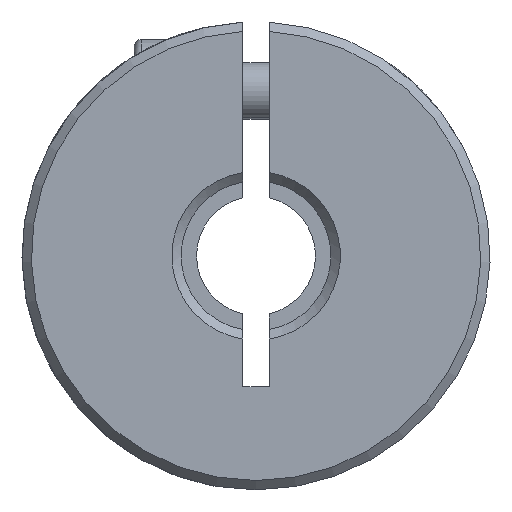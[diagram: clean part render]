
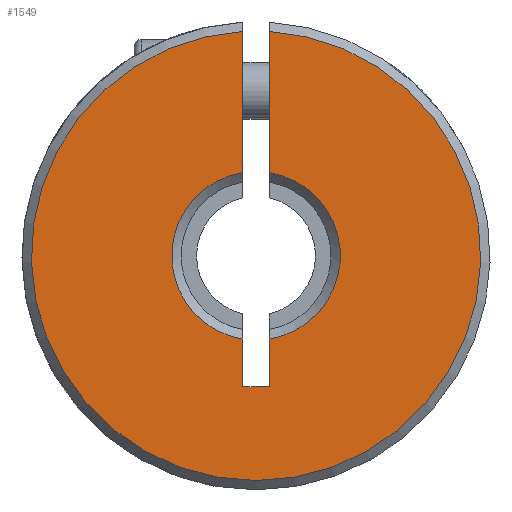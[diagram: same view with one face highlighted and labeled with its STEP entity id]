
A CAD part, front view. The second image highlights one B-rep face of the part: STEP entity #1549.
In plain terms, the highlighted planar face has unit normal (0, -1, 0).
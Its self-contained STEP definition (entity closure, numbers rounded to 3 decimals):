
#61 = EDGE_CURVE ( 'NONE', #613, #953, #4125, .T. ) ;
#71 = VECTOR ( 'NONE', #1649, 1000. ) ;
#156 = PLANE ( 'NONE',  #432 ) ;
#288 = ORIENTED_EDGE ( 'NONE', *, *, #5165, .F. ) ;
#303 = CARTESIAN_POINT ( 'NONE',  ( -0.7, 0.25, -7. ) ) ;
#430 = CARTESIAN_POINT ( 'NONE',  ( 0.7, 0.25, -7. ) ) ;
#432 = AXIS2_PLACEMENT_3D ( 'NONE', #3962, #1844, #3113 ) ;
#447 = CARTESIAN_POINT ( 'NONE',  ( -0.7, 0.25, -4.445 ) ) ;
#613 = VERTEX_POINT ( 'NONE', #2498 ) ;
#628 = VERTEX_POINT ( 'NONE', #974 ) ;
#848 = CARTESIAN_POINT ( 'NONE',  ( -0.7, 0.25, -7. ) ) ;
#890 = AXIS2_PLACEMENT_3D ( 'NONE', #4940, #1184, #2452 ) ;
#903 = ORIENTED_EDGE ( 'NONE', *, *, #61, .F. ) ;
#945 = VERTEX_POINT ( 'NONE', #2090 ) ;
#953 = VERTEX_POINT ( 'NONE', #4180 ) ;
#961 = DIRECTION ( 'NONE',  ( 0., 1., 0. ) ) ;
#974 = CARTESIAN_POINT ( 'NONE',  ( 0.7, 0.25, 11.98 ) ) ;
#1069 = CARTESIAN_POINT ( 'NONE',  ( 0.7, 0.25, -4.445 ) ) ;
#1073 = DIRECTION ( 'NONE',  ( 0., 0., 1. ) ) ;
#1184 = DIRECTION ( 'NONE',  ( 0., 1., 0. ) ) ;
#1308 = EDGE_CURVE ( 'NONE', #2051, #4084, #4613, .T. ) ;
#1317 = DIRECTION ( 'NONE',  ( 0., 0., 1. ) ) ;
#1549 = ADVANCED_FACE ( 'NONE', ( #3934 ), #156, .F. ) ;
#1649 = DIRECTION ( 'NONE',  ( 0., 0., -1. ) ) ;
#1714 = VERTEX_POINT ( 'NONE', #5418 ) ;
#1729 = LINE ( 'NONE', #430, #5420 ) ;
#1795 = DIRECTION ( 'NONE',  ( 0., 0., 1. ) ) ;
#1844 = DIRECTION ( 'NONE',  ( 0., 1., 0. ) ) ;
#1872 = CARTESIAN_POINT ( 'NONE',  ( 0., 0.25, 0. ) ) ;
#1952 = EDGE_CURVE ( 'NONE', #613, #628, #4398, .T. ) ;
#2029 = LINE ( 'NONE', #4446, #3791 ) ;
#2051 = VERTEX_POINT ( 'NONE', #447 ) ;
#2090 = CARTESIAN_POINT ( 'NONE',  ( 0.7, 0.25, 4.445 ) ) ;
#2333 = ORIENTED_EDGE ( 'NONE', *, *, #3919, .F. ) ;
#2452 = DIRECTION ( 'NONE',  ( 0., 0., 1. ) ) ;
#2498 = CARTESIAN_POINT ( 'NONE',  ( -0.7, 0.25, 11.98 ) ) ;
#2525 = EDGE_CURVE ( 'NONE', #945, #2934, #4494, .T. ) ;
#2564 = AXIS2_PLACEMENT_3D ( 'NONE', #3549, #961, #1795 ) ;
#2642 = EDGE_CURVE ( 'NONE', #2051, #953, #4747, .T. ) ;
#2732 = AXIS2_PLACEMENT_3D ( 'NONE', #1872, #3956, #1073 ) ;
#2767 = EDGE_CURVE ( 'NONE', #4084, #1714, #4962, .T. ) ;
#2890 = CARTESIAN_POINT ( 'NONE',  ( 0.7, 0.25, -7. ) ) ;
#2934 = VERTEX_POINT ( 'NONE', #1069 ) ;
#3105 = EDGE_LOOP ( 'NONE', ( #288, #3898, #2333, #3337, #5403, #4906, #903, #4480 ) ) ;
#3113 = DIRECTION ( 'NONE',  ( 0., 0., 1. ) ) ;
#3337 = ORIENTED_EDGE ( 'NONE', *, *, #2767, .F. ) ;
#3400 = DIRECTION ( 'NONE',  ( 0., 0., -1. ) ) ;
#3549 = CARTESIAN_POINT ( 'NONE',  ( 0., 0.25, 0. ) ) ;
#3655 = DIRECTION ( 'NONE',  ( 0., 0., 1. ) ) ;
#3773 = VECTOR ( 'NONE', #3400, 1000. ) ;
#3790 = VECTOR ( 'NONE', #5397, 1000. ) ;
#3791 = VECTOR ( 'NONE', #3655, 1000. ) ;
#3898 = ORIENTED_EDGE ( 'NONE', *, *, #2525, .T. ) ;
#3919 = EDGE_CURVE ( 'NONE', #1714, #2934, #2029, .T. ) ;
#3934 = FACE_OUTER_BOUND ( 'NONE', #3105, .T. ) ;
#3956 = DIRECTION ( 'NONE',  ( 0., -1., 0. ) ) ;
#3962 = CARTESIAN_POINT ( 'NONE',  ( 12.5, 0.25, -50. ) ) ;
#4084 = VERTEX_POINT ( 'NONE', #4632 ) ;
#4125 = LINE ( 'NONE', #303, #71 ) ;
#4180 = CARTESIAN_POINT ( 'NONE',  ( -0.7, 0.25, 4.445 ) ) ;
#4398 = CIRCLE ( 'NONE', #2732, 12. ) ;
#4446 = CARTESIAN_POINT ( 'NONE',  ( 0.7, 0.25, -7. ) ) ;
#4480 = ORIENTED_EDGE ( 'NONE', *, *, #1952, .T. ) ;
#4494 = CIRCLE ( 'NONE', #2564, 4.5 ) ;
#4613 = LINE ( 'NONE', #848, #3773 ) ;
#4632 = CARTESIAN_POINT ( 'NONE',  ( -0.7, 0.25, -7. ) ) ;
#4747 = CIRCLE ( 'NONE', #890, 4.5 ) ;
#4906 = ORIENTED_EDGE ( 'NONE', *, *, #2642, .T. ) ;
#4940 = CARTESIAN_POINT ( 'NONE',  ( 0., 0.25, 0. ) ) ;
#4962 = LINE ( 'NONE', #2890, #3790 ) ;
#5165 = EDGE_CURVE ( 'NONE', #945, #628, #1729, .T. ) ;
#5397 = DIRECTION ( 'NONE',  ( 1., 0., 0. ) ) ;
#5403 = ORIENTED_EDGE ( 'NONE', *, *, #1308, .F. ) ;
#5418 = CARTESIAN_POINT ( 'NONE',  ( 0.7, 0.25, -7. ) ) ;
#5420 = VECTOR ( 'NONE', #1317, 1000. ) ;
